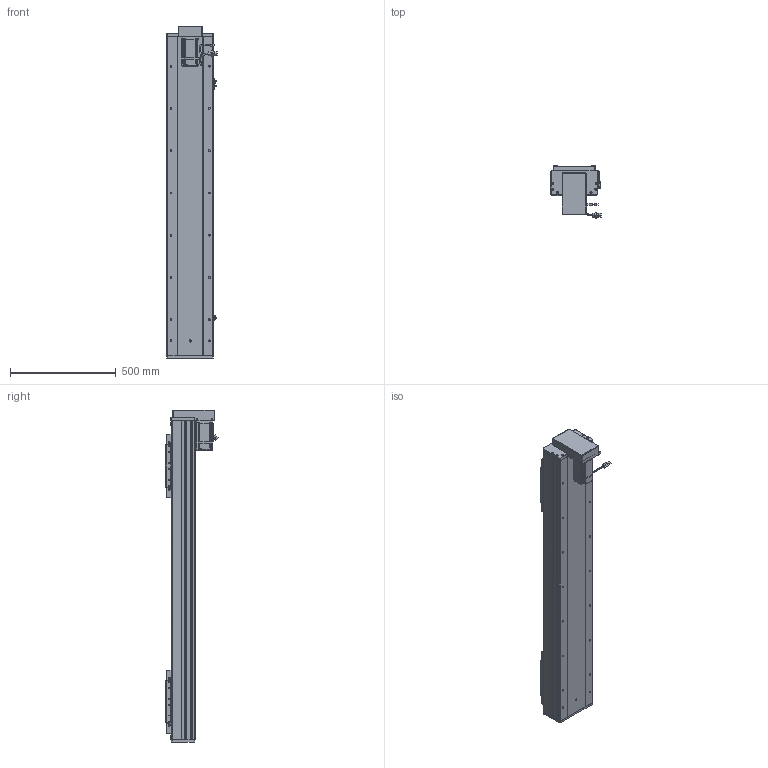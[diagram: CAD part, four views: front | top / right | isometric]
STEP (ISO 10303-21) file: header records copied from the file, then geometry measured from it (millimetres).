
FILE_DESCRIPTION (( 'STEP AP203' ), '1' );
FILE_NAME ('RY220F-L2525-300-BK.SLDASM_1100.step', '2022-07-04T01:20:56', ( '' ), ( '' ), 'SwSTEP 2.0', 'SolidWorks 2016', '' );
FILE_SCHEMA (( 'CONFIG_CONTROL_DESIGN' ));
Length unit declared in the file: millimetre
Products named in the file (15): RY220狟殏萇儂欶; RY220F-滅鳥奻裔; RY220F-祥凄詩湍-蛌殏-300_1100; RY220F-672覜茼んえ; RY220F臏賑釱25-32佪裝; 滅袉蝶18-24; 侐源滅袉蝶; RY220F-L2525-300-BK.SLDASM_1100; RY220狟殏萇儂假蚾啣; RY220F綴裔啣; 怢湛750W_ECMA-CX0807ES; 覜茼ん672; RY220F蛌殏菁釱-300_1100; RY220F-蛌殏奻裔啣-300_1100; RY220F-詩湍揤踡輸
Assembly tree (24 placements, depth 2):
  RY220F-L2525-300-BK.SLDASM_1100
    RY220F蛌殏菁釱-300_1100
    RY220F-蛌殏奻裔啣-300_1100  x2
    怢湛750W_ECMA-CX0807ES
    RY220F臏賑釱25-32佪裝  x2
    RY220F-滅鳥奻裔  x2
    滅袉蝶18-24  x3
    RY220F綴裔啣
    RY220F-祥凄詩湍-蛌殏-300_1100
    RY220F-詩湍揤踡輸  x2
    覜茼ん672  x3
    RY220F-672覜茼んえ  x2
    侐源滅袉蝶  x2
    RY220狟殏萇儂假蚾啣
    RY220狟殏萇儂欶
Bounding box: 237.27 x 247.24 x 1571 mm (x, y, z)
Volume: 15082433.4 mm3; surface area: 3895456.4 mm2
Topology: 25 solids, 25 shells, 2767 faces, 7522 edges, 4655 vertices
Faces by surface type: cylinder 1230, plane 1062, cone 404, bspline 45, sphere 16, torus 10
Entity records: 68601 total; most frequent: CARTESIAN_POINT 18649, ORIENTED_EDGE 10106, DIRECTION 9793, EDGE_CURVE 5053, AXIS2_PLACEMENT_3D 3466, VERTEX_POINT 3271, LINE 2861, VECTOR 2861
